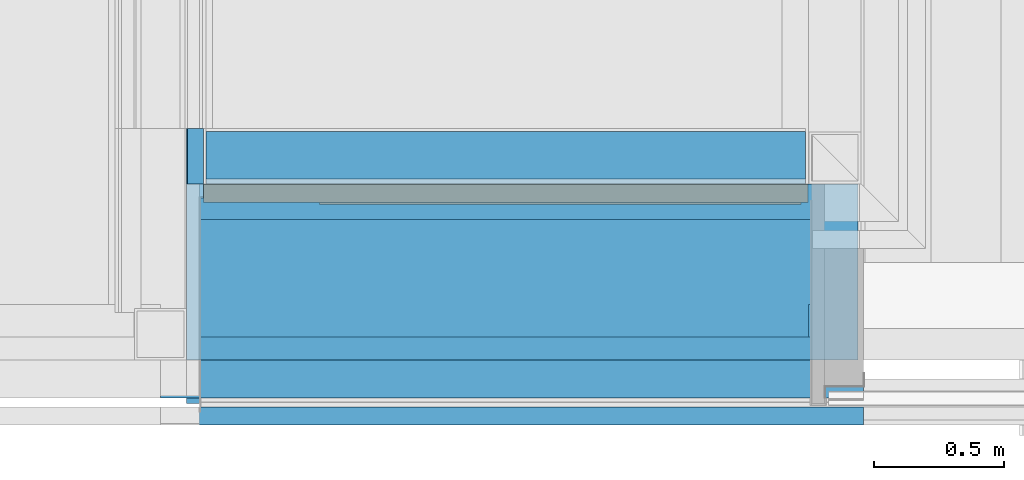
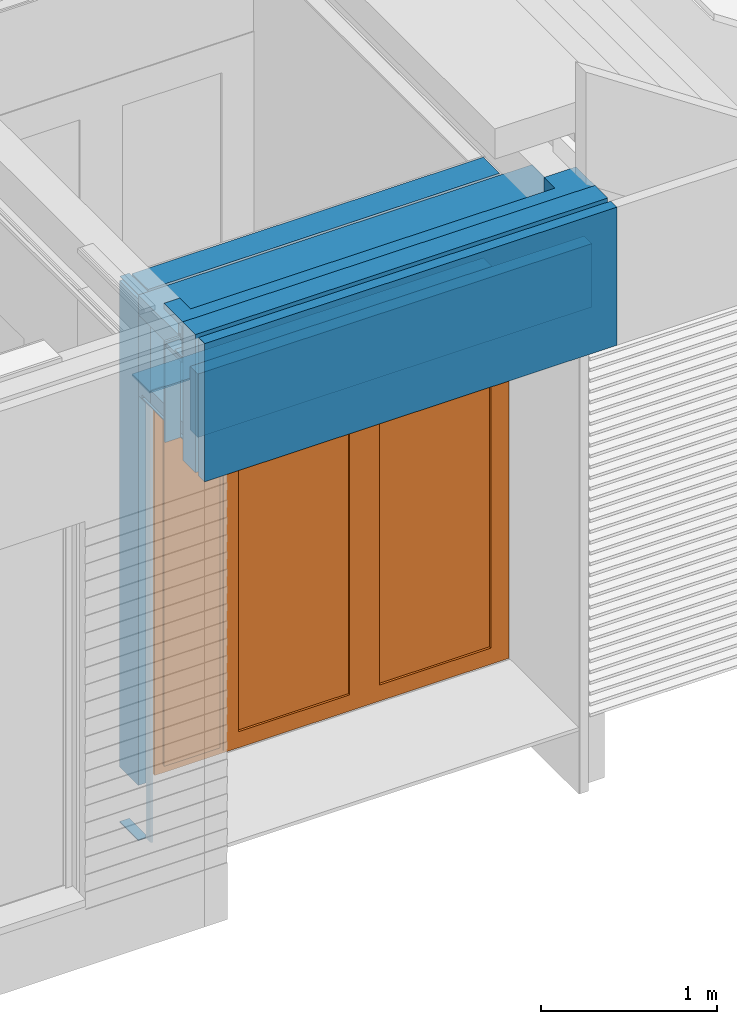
# One storey, part 43 of 165: 11 building element parts, 1 proxy, 1 opening, 4 elements without a shape of their own, plus 2 elements that do not belong to this part.
"""IFC2X3 building model written with IfcOpenShell, lengths in millimetres."""

from ifc_helpers import new_model, entity, si_unit, converted_unit, derived_unit, money_unit, direction, frame, origin_with_axes, place, context, subcontext, project, spatial, open_shell, faceted_brep, surface_model, material, type_object, element, fill, aggregate, save


model = new_model("IFC2X3")

# Units and contexts
model_context = context("Model", 3, precision=0.01, world=origin_with_axes(), true_north=direction((0.0, 1.0)))
body_context = subcontext(model_context, "Body", "Model", "MODEL_VIEW")
ifc_project = project(units=[si_unit("LENGTHUNIT", "METRE", prefix="MILLI"), si_unit("AREAUNIT", "SQUARE_METRE"), si_unit("VOLUMEUNIT", "CUBIC_METRE"), converted_unit("PLANEANGLEUNIT", "DEGREE", entity("IfcPlaneAngleMeasure", 0.0174532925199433), si_unit("PLANEANGLEUNIT", "RADIAN"), dimensions=[0, 0, 0, 0, 0, 0, 0]), money_unit("EUR"), converted_unit("TIMEUNIT", "Year", entity("IfcTimeMeasure", 31556926.0), si_unit("TIMEUNIT", "SECOND"), dimensions=[0, 0, 1, 0, 0, 0, 0]), si_unit("MASSUNIT", "GRAM", prefix="KILO"), si_unit("THERMODYNAMICTEMPERATUREUNIT", "DEGREE_CELSIUS"), si_unit("LUMINOUSINTENSITYUNIT", "LUMEN"), si_unit("ENERGYUNIT", "JOULE", prefix="MEGA"), derived_unit("THERMALCONDUCTANCEUNIT", [(si_unit("POWERUNIT", "WATT"), 1), (si_unit("LENGTHUNIT", "METRE"), -1), (si_unit("THERMODYNAMICTEMPERATUREUNIT", "KELVIN"), -1)]), derived_unit("SPECIFICHEATCAPACITYUNIT", [(si_unit("ENERGYUNIT", "JOULE"), 1), (si_unit("MASSUNIT", "GRAM", prefix="KILO"), -1), (si_unit("THERMODYNAMICTEMPERATUREUNIT", "KELVIN"), -1)]), derived_unit("MASSDENSITYUNIT", [(si_unit("MASSUNIT", "GRAM", prefix="KILO"), 1), (si_unit("VOLUMEUNIT", "CUBIC_METRE"), -1)])], contexts=[model_context])

# Site, building, storey
site_placement = place(None, origin_with_axes())
site = spatial("IfcSite", under=ifc_project, at=site_placement, Name="Site", CompositionType="ELEMENT")
building_placement = place(site_placement, origin_with_axes())
building = spatial("IfcBuilding", under=site, at=building_placement, Name="Naam gebouw", CompositionType="ELEMENT")
storey_placement = place(building_placement, origin_with_axes())
storey = spatial("IfcBuildingStorey", under=building, at=storey_placement, Name="Begane grond", CompositionType="ELEMENT", Elevation=0.0)

# Proxy
building_element_proxy_type = type_object("IfcBuildingElementProxyType", Name="D2 zl1 26", PredefinedType="NOTDEFINED")
wall_1_placement = place(storey_placement, frame((8950.0, 679.999999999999, -485.0), z_axis=(0.0, 0.0, 1.0), x_axis=(1.0, 0.0, 0.0)))
opening_placement = place(wall_1_placement, frame((1230.500000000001, 0.0, 475.0), z_axis=(0.0, 0.0, 1.0), x_axis=(1.0, 0.0, 0.0)))
proxy_placement = place(opening_placement, frame((1165.000000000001, 0.0, 0.0), z_axis=(0.0, 0.0, 1.0), x_axis=(-1.0, 0.0, 0.0)))
proxy = element("IfcBuildingElementProxy", 1, at=proxy_placement, inside=storey, type_object=building_element_proxy_type, Name="_Merk AJ", context=body_context, shape_type="SurfaceModel", body=[
    faceted_brep([(1881.999999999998, 0.9999999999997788, 2594.0), (1881.999999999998, 0.9999999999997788, 2566.0), (1907.999999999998, 0.9999999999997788, 2566.0), (2276.000000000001, 0.9999999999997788, 2566.0), (2330.000000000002, 0.9999999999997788, 2566.0), (2330.000000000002, 0.9999999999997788, 2620.0), (0.0, 1.000000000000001, 2620.0), (0.0, 1.000000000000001, 2566.0), (26.00000000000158, 1.000000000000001, 2566.0), (26.00000000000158, 1.000000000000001, 2594.0), (1881.999999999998, 72.99999999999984, 2594.0), (1881.999999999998, 72.99999999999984, 2566.0), (1907.999999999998, 72.99999999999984, 2566.0), (2276.000000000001, 72.99999999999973, 2566.0), (2330.000000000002, 72.99999999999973, 2566.0), (2330.000000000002, 72.99999999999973, 2620.0), (0.0, 73.00000000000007, 2620.0), (0.0, 73.00000000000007, 2566.0), (26.00000000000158, 73.00000000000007, 2566.0), (26.00000000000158, 73.00000000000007, 2594.0)], [[[0, 1, 2, 3, 4, 5, 6, 7, 8, 9]], [[1, 0, 10, 11]], [[1, 11, 12, 2]], [[2, 12, 13, 3]], [[3, 13, 14, 4]], [[4, 14, 15, 5]], [[5, 15, 16, 6]], [[6, 16, 17, 7]], [[18, 8, 7, 17]], [[9, 8, 18, 19]], [[0, 9, 19, 10]], [[11, 10, 19, 18, 17, 16, 15, 14, 13, 12]]]),
    faceted_brep([(26.00000000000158, 73.00000000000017, 0.0), (1881.999999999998, 72.99999999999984, 0.0), (1881.999999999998, 0.9999999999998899, 0.0), (26.00000000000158, 1.000000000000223, 0.0), (26.00000000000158, 73.00000000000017, 20.0), (1881.999999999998, 72.99999999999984, 20.00000000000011), (1881.999999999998, 0.9999999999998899, 20.00000000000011), (26.00000000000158, 1.000000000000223, 19.99999999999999)], [[[0, 1, 2, 3]], [[4, 5, 1, 0]], [[1, 5, 6, 2]], [[3, 2, 6, 7]], [[0, 3, 7, 4]], [[7, 6, 5, 4]]]),
    faceted_brep([(2330.000000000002, 72.99999999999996, 0.0), (2330.000000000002, 0.9999999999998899, 0.0), (2276.000000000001, 0.9999999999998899, 0.0), (2276.000000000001, 72.99999999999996, 0.0), (2330.000000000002, 72.99999999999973, 2566.0), (2330.000000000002, 0.9999999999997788, 2566.0), (2276.000000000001, 0.9999999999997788, 2566.0), (2276.000000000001, 0.9999999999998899, 53.99999999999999), (2276.000000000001, 72.99999999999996, 54.0), (2276.000000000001, 72.99999999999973, 2566.0)], [[[0, 1, 2, 3]], [[4, 5, 1, 0]], [[1, 5, 6, 7, 2]], [[3, 2, 7, 8]], [[0, 3, 8, 9, 4]], [[9, 6, 5, 4]], [[8, 7, 6, 9]]]),
    faceted_brep([(1881.999999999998, 1.000000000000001, 0.0), (1907.999999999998, 1.000000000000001, 0.0), (1907.999999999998, 1.000000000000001, 54.00000000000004), (1907.999999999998, 0.9999999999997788, 2566.0), (1881.999999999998, 0.9999999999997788, 2566.0), (1881.999999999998, 72.99999999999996, 0.0), (1907.999999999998, 72.99999999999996, 0.0), (1907.999999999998, 72.99999999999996, 54.00000000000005), (1907.999999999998, 72.99999999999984, 2566.0), (1881.999999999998, 72.99999999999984, 2566.0)], [[[0, 1, 2, 3, 4]], [[5, 6, 1, 0]], [[6, 7, 2, 1]], [[7, 8, 3, 2]], [[4, 3, 8, 9]], [[9, 5, 0, 4]], [[9, 8, 7, 6, 5]]]),
    faceted_brep([(2276.000000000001, 72.99999999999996, 54.0), (2276.000000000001, 0.9999999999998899, 53.99999999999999), (2276.000000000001, 0.9999999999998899, 0.0), (2276.000000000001, 72.99999999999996, 0.0), (1907.999999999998, 72.99999999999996, 54.0), (1907.999999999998, 1.000000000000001, 53.99999999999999), (1907.999999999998, 1.000000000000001, 0.0), (1907.999999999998, 72.99999999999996, 0.0)], [[[0, 1, 2, 3]], [[4, 5, 1, 0]], [[1, 5, 6, 2]], [[3, 2, 6, 7]], [[0, 3, 7, 4]], [[7, 6, 5, 4]]]),
    faceted_brep([(26.00000000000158, 73.00000000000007, 2566.0), (0.0, 73.00000000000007, 2566.0), (0.0, 1.000000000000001, 2566.0), (26.00000000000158, 1.000000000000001, 2566.0), (26.00000000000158, 73.00000000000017, 0.0), (0.0, 73.00000000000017, 0.0), (0.0, 1.000000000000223, 0.0), (26.00000000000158, 1.000000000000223, 0.0)], [[[0, 1, 2, 3]], [[4, 5, 1, 0]], [[1, 5, 6, 2]], [[3, 2, 6, 7]], [[7, 4, 0, 3]], [[7, 6, 5, 4]]]),
    faceted_brep([(26.00000000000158, 80.20000000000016, 118.0), (124.0000000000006, 80.20000000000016, 118.0), (124.0000000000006, 0.2000000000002, 118.0), (26.00000000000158, 0.2000000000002, 118.0), (26.00000000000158, 80.19999999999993, 2496.0), (124.0000000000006, 80.19999999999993, 2496.0), (124.0000000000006, 0.199999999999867, 2496.0), (26.00000000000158, 0.199999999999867, 2496.0)], [[[0, 1, 2, 3]], [[0, 4, 5, 1]], [[1, 5, 6, 2]], [[3, 2, 6, 7]], [[4, 0, 3, 7]], [[5, 4, 7, 6]]]),
    faceted_brep([(953.9999999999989, 80.20000000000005, 118.0), (953.9999999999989, 80.19999999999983, 2496.0), (953.9999999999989, 0.1999999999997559, 2496.0), (953.9999999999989, 0.200000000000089, 118.0), (855.9999999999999, 80.20000000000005, 118.0), (855.9999999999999, 80.19999999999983, 2496.0), (855.9999999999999, 0.199999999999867, 2496.0), (855.9999999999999, 0.200000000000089, 118.0)], [[[0, 1, 2, 3]], [[0, 4, 5, 1]], [[1, 5, 6, 2]], [[3, 2, 6, 7]], [[4, 0, 3, 7]], [[5, 4, 7, 6]]]),
    faceted_brep([(26.00000000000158, 80.20000000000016, 20.0), (953.9999999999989, 80.20000000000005, 20.0), (953.9999999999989, 0.200000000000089, 20.0), (26.00000000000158, 0.2000000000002, 20.0), (26.00000000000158, 80.20000000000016, 118.0), (124.0000000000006, 80.20000000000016, 118.0), (855.9999999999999, 80.20000000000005, 118.0), (953.9999999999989, 80.20000000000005, 118.0), (953.9999999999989, 0.200000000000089, 118.0), (855.9999999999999, 0.200000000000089, 118.0), (124.0000000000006, 0.2000000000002, 118.0), (26.00000000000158, 0.2000000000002, 118.0)], [[[0, 1, 2, 3]], [[0, 4, 5, 6, 7, 1]], [[1, 7, 8, 2]], [[3, 2, 8, 9, 10, 11]], [[4, 0, 3, 11]], [[5, 4, 11, 10]], [[6, 5, 10, 9]], [[7, 6, 9, 8]]]),
    faceted_brep([(26.00000000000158, 80.19999999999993, 2594.0), (26.00000000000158, 80.19999999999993, 2496.0), (26.00000000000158, 0.199999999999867, 2496.0), (26.00000000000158, 0.199999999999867, 2594.0), (953.9999999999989, 80.19999999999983, 2594.0), (953.9999999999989, 80.19999999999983, 2496.0), (855.9999999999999, 80.19999999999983, 2496.0), (124.0000000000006, 80.19999999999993, 2496.0), (124.0000000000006, 0.199999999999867, 2496.0), (855.9999999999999, 0.199999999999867, 2496.0), (953.9999999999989, 0.1999999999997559, 2496.0), (953.9999999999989, 0.1999999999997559, 2594.0)], [[[0, 1, 2, 3]], [[0, 4, 5, 6, 7, 1]], [[1, 7, 8, 2]], [[3, 2, 8, 9, 10, 11]], [[4, 0, 3, 11]], [[5, 4, 11, 10]], [[6, 5, 10, 9]], [[7, 6, 9, 8]]]),
    surface_model("IfcShellBasedSurfaceModel", [(124.0000000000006, 65.20000000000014, 118.0), (124.0000000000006, 65.20000000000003, 2496.0), (855.9999999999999, 65.19999999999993, 2496.0), (855.9999999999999, 65.20000000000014, 118.0)], [open_shell([[[0, 1, 2, 3]]])]),
    surface_model("IfcShellBasedSurfaceModel", [(124.0000000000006, 15.20000000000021, 118.0), (855.9999999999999, 15.2000000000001, 118.0), (855.9999999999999, 15.19999999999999, 2496.0), (124.0000000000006, 15.19999999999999, 2496.0)], [open_shell([[[0, 1, 2, 3]]])]),
    faceted_brep([(1881.999999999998, 80.19999999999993, 118.0), (1881.999999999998, 0.199999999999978, 118.0), (1783.999999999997, 0.199999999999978, 118.0), (1783.999999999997, 80.19999999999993, 118.0), (1881.999999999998, 80.19999999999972, 2496.0), (1881.999999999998, 0.1999999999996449, 2496.0), (1783.999999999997, 0.1999999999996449, 2496.0), (1783.999999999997, 80.19999999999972, 2496.0)], [[[0, 1, 2, 3]], [[4, 5, 1, 0]], [[1, 5, 6, 2]], [[3, 2, 6, 7]], [[0, 3, 7, 4]], [[7, 6, 5, 4]]]),
    faceted_brep([(953.9999999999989, 80.20000000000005, 118.0), (953.9999999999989, 0.200000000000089, 118.0), (953.9999999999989, 0.1999999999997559, 2496.0), (953.9999999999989, 80.19999999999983, 2496.0), (1052.0, 80.20000000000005, 118.0), (1052.0, 0.200000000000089, 118.0), (1052.0, 0.1999999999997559, 2496.0), (1052.0, 80.19999999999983, 2496.0)], [[[0, 1, 2, 3]], [[4, 5, 1, 0]], [[1, 5, 6, 2]], [[3, 2, 6, 7]], [[0, 3, 7, 4]], [[7, 6, 5, 4]]]),
    faceted_brep([(1881.999999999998, 80.19999999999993, 20.0), (1881.999999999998, 0.199999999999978, 20.0), (953.9999999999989, 0.200000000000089, 20.0), (953.9999999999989, 80.20000000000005, 20.0), (1881.999999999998, 80.19999999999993, 118.0), (1881.999999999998, 0.199999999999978, 118.0), (1783.999999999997, 0.199999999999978, 118.0), (1052.0, 0.200000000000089, 118.0), (953.9999999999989, 0.200000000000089, 118.0), (953.9999999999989, 80.20000000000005, 118.0), (1052.0, 80.20000000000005, 118.0), (1783.999999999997, 80.19999999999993, 118.0)], [[[0, 1, 2, 3]], [[4, 5, 1, 0]], [[1, 5, 6, 7, 8, 2]], [[3, 2, 8, 9]], [[0, 3, 9, 10, 11, 4]], [[11, 6, 5, 4]], [[10, 7, 6, 11]], [[9, 8, 7, 10]]]),
    faceted_brep([(1881.999999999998, 80.19999999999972, 2594.0), (1881.999999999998, 0.1999999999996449, 2594.0), (1881.999999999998, 0.1999999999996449, 2496.0), (1881.999999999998, 80.19999999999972, 2496.0), (953.9999999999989, 80.19999999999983, 2594.0), (953.9999999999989, 0.1999999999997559, 2594.0), (953.9999999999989, 0.1999999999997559, 2496.0), (1052.0, 0.1999999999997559, 2496.0), (1783.999999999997, 0.1999999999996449, 2496.0), (1783.999999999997, 80.19999999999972, 2496.0), (1052.0, 80.19999999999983, 2496.0), (953.9999999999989, 80.19999999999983, 2496.0)], [[[0, 1, 2, 3]], [[4, 5, 1, 0]], [[1, 5, 6, 7, 8, 2]], [[3, 2, 8, 9]], [[0, 3, 9, 10, 11, 4]], [[11, 6, 5, 4]], [[10, 7, 6, 11]], [[9, 8, 7, 10]]]),
    surface_model("IfcShellBasedSurfaceModel", [(1783.999999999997, 65.20000000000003, 118.0), (1052.0, 65.20000000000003, 118.0), (1052.0, 65.19999999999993, 2496.0), (1783.999999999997, 65.19999999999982, 2496.0)], [open_shell([[[0, 1, 2, 3]]])]),
    surface_model("IfcShellBasedSurfaceModel", [(1783.999999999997, 15.19999999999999, 118.0), (1783.999999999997, 15.19999999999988, 2496.0), (1052.0, 15.19999999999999, 2496.0), (1052.0, 15.2000000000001, 118.0)], [open_shell([[[0, 1, 2, 3]]])]),
    surface_model("IfcShellBasedSurfaceModel", [(2276.000000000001, 87.99999999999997, 54.0), (1907.999999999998, 87.99999999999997, 54.0), (1907.999999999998, 87.99999999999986, 2566.0), (2276.000000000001, 87.99999999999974, 2566.0)], [open_shell([[[0, 1, 2, 3]]])]),
    surface_model("IfcShellBasedSurfaceModel", [(2276.000000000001, 37.99999999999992, 54.0), (2276.000000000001, 37.99999999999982, 2566.0), (1907.999999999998, 37.99999999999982, 2566.0), (1907.999999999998, 37.99999999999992, 54.0)], [open_shell([[[0, 1, 2, 3]]])]),
])

# Wall, opening
wall_type_1 = type_object("IfcWallType", Name="21 Buitenwand staalplaat 268", PredefinedType="NOTDEFINED")
wall_1 = element("IfcWall", 2, at=wall_1_placement, inside=storey, type_object=wall_type_1, Name="21_Wand-x")
opening = element("IfcOpeningElement", 3, at=opening_placement, cuts=wall_1, Name="_Merk AJ", context=body_context, shape_type="Brep", body=[
    faceted_brep([(1165.000000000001, 215.0000000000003, 3620.0), (1165.000000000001, 215.0000000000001, -599.9999999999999), (-1165.000000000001, 215.0000000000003, -599.9999999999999), (-1165.000000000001, 215.0000000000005, 3620.0), (1165.000000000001, -55.00000000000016, 3620.0), (1165.000000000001, -55.00000000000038, -599.9999999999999), (-1165.000000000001, -55.00000000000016, -599.9999999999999), (-1165.000000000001, -54.99999999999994, 3620.0)], [[[0, 1, 2, 3]], [[4, 5, 1, 0]], [[5, 6, 2, 1]], [[6, 7, 3, 2]], [[7, 4, 0, 3]], [[6, 5, 4, 7]]]),
])

fill(opening, proxy)

# Building element part
ifc_material_1 = material(Name="Isolatie - Glaswol zacht")
building_element_part_1_placement = place(wall_1_placement, origin_with_axes())
building_element_part_1 = element("IfcBuildingElementPart", 4, at=building_element_part_1_placement, material=ifc_material_1, Name="Isolatie - Glaswol zacht", context=body_context, shape_type="Brep", body=[
    faceted_brep([(50.00000000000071, 0.0, 0.0), (50.00000000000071, 0.0, 3095.0), (65.50000000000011, 0.0, 3095.0), (65.50000000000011, 0.0, 0.0), (50.00000000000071, -43.43750990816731, 3096.99999613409), (50.00000000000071, -43.43751438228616, 3095.0), (50.00000000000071, -49.99999999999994, 0.0), (50.00000000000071, -49.99999999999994, 3096.99999613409), (65.50000000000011, -43.43751438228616, 3095.0), (65.50000000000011, -43.43750990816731, 3096.99999613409), (65.50000000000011, -49.99999999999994, 3096.99999613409), (65.50000000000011, -49.99999999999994, 0.0)], [[[0, 1, 2, 3]], [[4, 5, 1, 0, 6, 7]], [[5, 8, 2, 1]], [[2, 8, 9, 10, 11, 3]], [[11, 6, 0, 3]], [[5, 4, 9, 8]], [[11, 10, 7, 6]], [[10, 9, 4, 7]]]),
])

ifc_material_2 = material(Name="Rockpanel RAL 1001")
building_element_part_2_placement = place(wall_1_placement, origin_with_axes())
building_element_part_2 = element("IfcBuildingElementPart", 5, at=building_element_part_2_placement, material=ifc_material_2, Name="Rockpanel RAL 1001", context=body_context, shape_type="Brep", body=[
    faceted_brep([(54.00000000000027, -49.99999999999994, 0.0), (54.00000000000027, -49.99999999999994, 3096.99999613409), (65.50000000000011, -49.99999999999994, 3096.99999613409), (65.50000000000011, -49.99999999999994, 0.0), (54.00000000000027, -53.9999999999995, 0.0), (54.00000000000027, -53.9999999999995, 3096.99999613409), (65.50000000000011, -53.9999999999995, 3096.99999613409), (65.50000000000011, -53.9999999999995, 0.0)], [[[0, 1, 2, 3]], [[4, 5, 1, 0]], [[5, 6, 2, 1]], [[3, 2, 6, 7]], [[7, 4, 0, 3]], [[7, 6, 5, 4]]]),
])

ifc_material_3 = material(Name="Steen - Kalkzandsteen C")
building_element_part_3_placement = place(wall_1_placement, origin_with_axes())
building_element_part_3 = element("IfcBuildingElementPart", 6, at=building_element_part_3_placement, material=ifc_material_3, Name="Steen - Kalkzandsteen C", context=body_context, shape_type="Brep", body=[
    faceted_brep([(0.0, 213.9999999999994, 5.000000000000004), (65.50000000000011, 213.9999999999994, 5.000000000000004), (65.50000000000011, 213.9999999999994, 0.0), (0.0, 213.9999999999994, 0.0), (65.50000000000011, 0.0, 5.000000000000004), (0.0, 0.0, 5.000000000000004), (65.50000000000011, 0.0, 0.0), (0.0, 0.0, 0.0)], [[[0, 1, 2, 3]], [[4, 1, 0, 5]], [[1, 4, 6, 2]], [[6, 7, 3, 2]], [[5, 0, 3, 7]], [[4, 5, 7, 6]]]),
    faceted_brep([(65.50000000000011, 0.0, 384.9999999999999), (65.50000000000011, 213.9999999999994, 384.9999999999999), (65.50000000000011, 213.9999999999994, 3765.000002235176), (65.50000000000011, 0.0, 3765.000002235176), (0.0, 213.9999999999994, 384.9999999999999), (0.0, 0.0, 384.9999999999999), (0.0, 213.9999999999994, 3765.000002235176), (0.0, 0.0, 3765.000002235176)], [[[0, 1, 2, 3]], [[4, 1, 0, 5]], [[1, 4, 6, 2]], [[2, 6, 7, 3]], [[5, 0, 3, 7]], [[4, 5, 7, 6]]]),
    faceted_brep([(3.00000000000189, 214.0000000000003, 3795.0), (3.00000000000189, 0.0, 3795.0), (65.50000000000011, 0.0, 3795.0), (65.50000000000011, 214.0000000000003, 3795.0), (3.00000000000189, 0.0, 3790.000002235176), (3.00000000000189, 214.0000000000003, 3790.000002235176), (65.50000000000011, 0.0, 3790.000002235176), (65.50000000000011, 214.0000000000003, 3790.000002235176)], [[[0, 1, 2, 3]], [[4, 1, 0, 5]], [[1, 4, 6, 2]], [[2, 6, 7, 3]], [[5, 0, 3, 7]], [[4, 5, 7, 6]]]),
])

aggregate(wall_1, [building_element_part_1, building_element_part_2, building_element_part_3])

# Wall, building element parts
wall_type_2 = type_object("IfcWallType", Name="21 Buitenwand spouwmuur 464", PredefinedType="NOTDEFINED")
wall_2_placement = place(storey_placement, frame((11560.00000000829, 0.0, 2610.0), z_axis=(0.0, 0.0, 1.0), x_axis=(-1.0, 0.0, 0.0)))
wall_2 = element("IfcWall", 7, at=wall_2_placement, inside=storey, type_object=wall_type_2, Name="21_Wand-x")
ifc_material_4 = material(Name="Steen - Baksteen")
building_element_part_4_placement = place(wall_2_placement, origin_with_axes())
building_element_part_4 = element("IfcBuildingElementPart", 8, at=building_element_part_4_placement, material=ifc_material_4, Name="Steen - Baksteen", context=body_context, shape_type="Brep", body=[
    faceted_brep([(0.0, 250.0, 960.0000034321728), (0.0, 180.0000028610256, 960.0000034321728), (2710.000000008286, 179.9999999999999, 959.9999999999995), (2710.000000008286, 249.9999999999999, 959.9999999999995), (0.0, 250.0, 931.4933415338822), (0.0, 250.0, 0.0), (0.0, 180.0, 0.0), (2710.000000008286, 179.9999999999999, 0.0), (2710.000000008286, 249.9999999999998, 0.0)], [[[0, 1, 2, 3]], [[1, 0, 4, 5, 6]], [[1, 6, 7, 2]], [[3, 2, 7, 8]], [[4, 0, 3, 8, 5]], [[6, 5, 8, 7]]]),
])
building_element_part_5_placement = place(wall_2_placement, origin_with_axes())
building_element_part_5 = element("IfcBuildingElementPart", 9, at=building_element_part_5_placement, material=ifc_material_3, Name="Steen - Kalkzandsteen C", context=body_context, shape_type="Brep", body=[
    faceted_brep([(2710.000000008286, -10.0000000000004, 713.9999999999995), (2620.00000000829, -10.0000000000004, 713.9999999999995), (2620.00000000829, -89.99999999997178, 713.9999999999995), (2710.000000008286, -89.99999999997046, 713.9999999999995), (2710.000000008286, -10.0000000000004, 700.0000000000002), (2620.00000000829, -10.0000000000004, 700.0000000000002), (2620.00000000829, -89.99999999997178, 700.0000000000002), (2710.000000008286, -89.99999999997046, 699.9999999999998)], [[[0, 1, 2, 3]], [[1, 0, 4, 5]], [[6, 2, 1, 5]], [[2, 6, 7, 3]], [[4, 0, 3, 7]], [[5, 4, 7, 6]]]),
    faceted_brep([(2710.000000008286, -10.0000000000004, 695.0000022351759), (2620.00000000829, -10.0000000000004, 695.0000022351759), (2620.00000000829, -190.0000000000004, 695.0000022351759), (2710.000000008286, -190.0000000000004, 695.0000022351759), (2710.000000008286, -10.0000000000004, 670.0000022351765), (2620.00000000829, -10.0000000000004, 670.0000022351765), (2620.00000000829, -190.0000000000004, 670.0000022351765), (2710.000000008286, -190.0000000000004, 670.0000022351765)], [[[0, 1, 2, 3]], [[1, 0, 4, 5]], [[2, 1, 5, 6]], [[3, 2, 6, 7]], [[4, 0, 3, 7]], [[5, 4, 7, 6]]]),
    faceted_brep([(2610.00000000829, 0.0, 700.0000000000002), (2610.00000000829, -200.0000000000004, 699.9999999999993), (2610.00000000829, -214.0000000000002, 699.9999999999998), (2607.000000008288, -213.9999999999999, 699.9999999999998), (2607.000000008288, -89.99999999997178, 699.9999999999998), (211.0000000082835, -90.0000000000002, 699.9999999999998), (211.0000000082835, -214.0000000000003, 699.9999999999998), (205.0000000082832, -214.0000000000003, 699.9999999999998), (205.0000000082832, -90.0000000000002, 699.9999999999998), (20.00000000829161, -90.00000000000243, 699.9999999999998), (20.00000000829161, 0.0005349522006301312, 699.9999999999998), (2610.00000000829, 0.0, 730.000002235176), (2610.00000000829, -200.0000000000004, 730.000002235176), (2610.00000000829, -200.0000000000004, 0.0), (2610.00000000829, -214.0000000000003, 0.0), (2710.000000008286, -214.0000000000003, 0.0), (2710.000000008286, -213.9999999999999, 699.9999999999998), (2615.000000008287, -214.0000000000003, 699.9999999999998), (2615.000000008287, -213.9999999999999, 919.9999999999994), (2710.000000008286, -213.9999999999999, 919.9999999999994), (2710.000000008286, -213.9999999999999, 959.9999999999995), (2607.000000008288, -213.9999999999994, 959.9999999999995), (2607.000000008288, -89.99999999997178, 713.9999999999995), (2607.000000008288, -89.99999999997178, 959.9999999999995), (2607.000000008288, -89.99999999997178, 945.9999999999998), (2607.000000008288, -9.999999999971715, 945.9999999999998), (2607.000000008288, -9.999999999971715, 713.9999999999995), (211.0000000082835, -90.0000000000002, 713.9999999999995), (211.0000000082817, -213.9999999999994, 960.0000000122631), (211.0000000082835, -10.00000000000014, 713.9999999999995), (211.0000000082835, -10.00000000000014, 945.9999999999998), (211.0000000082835, -90.0000000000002, 945.9999999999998), (211.0000000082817, -90.0000000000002, 959.9999999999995), (205.0000000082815, -213.9999999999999, 930.0000004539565), (0.0, -213.9999999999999, 960.0000034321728), (0.0, -213.9999999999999, 931.4933415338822), (0.0, -213.9999999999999, 0.0), (20.00000000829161, -213.9999999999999, 0.0), (20.00000000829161, -213.9999999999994, 699.9999999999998), (15.00000000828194, -213.9999999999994, 699.9999999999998), (15.00000000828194, -213.9999999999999, 930.0000004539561), (205.0000000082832, -90.0000000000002, 713.9999999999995), (205.0000000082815, -10.00000000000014, 930.0000004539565), (205.0000000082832, -10.00000000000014, 713.9999999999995), (15.00000000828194, -90.00000000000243, 699.9999999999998), (15.00000000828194, -90.00000000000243, 713.9999999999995), (20.00000000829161, 0.0005349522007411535, 0.0), (0.0, 0.0, 0.0), (0.0, -2.622606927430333e-06, 960.0000034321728), (2710.000000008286, 0.0, 959.9999999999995), (2710.000000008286, 0.0, 730.000002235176), (2710.000000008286, -10.0000000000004, 730.000002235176), (2620.00000000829, -10.0000000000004, 730.000002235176), (2615.000000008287, -9.999999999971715, 730.000002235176), (2615.000000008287, -200.0000000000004, 730.000002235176), (2615.000000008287, -200.0000000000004, 699.9999999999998), (2710.000000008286, -200.0000000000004, 699.9999999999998), (2710.000000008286, -200.0000000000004, 0.0), (2615.000000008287, -9.999999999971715, 919.9999999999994), (2710.000000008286, -9.999999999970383, 919.9999999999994), (15.00000000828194, -10.00000000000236, 713.9999999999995), (15.00000000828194, -10.00000000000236, 930.0000004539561)], [[[0, 1, 2, 3, 4, 5, 6, 7, 8, 9, 10]], [[1, 0, 11, 12]], [[1, 13, 14, 2]], [[3, 2, 14, 15, 16, 17, 18, 19, 20, 21]], [[22, 4, 3, 21, 23, 24, 25, 26]], [[27, 5, 4, 22]], [[28, 6, 5, 27, 29, 30, 31, 32]], [[33, 7, 6, 28, 34, 35, 36, 37, 38, 39, 40]], [[41, 8, 7, 33, 42, 43]], [[44, 9, 8, 41, 45]], [[10, 9, 38, 37, 46]], [[11, 0, 10, 46, 47, 48, 49, 50]], [[11, 50, 51, 52, 53, 54, 12]], [[13, 1, 12, 54, 55, 56, 57]], [[13, 57, 15, 14]], [[57, 56, 16, 15]], [[56, 55, 17, 16]], [[54, 53, 58, 18, 17, 55]], [[18, 58, 59, 19]], [[51, 50, 49, 20, 19, 59]], [[34, 28, 32, 23, 21, 20, 49, 48]], [[32, 31, 24, 23]], [[24, 31, 30, 25]], [[25, 30, 29, 26]], [[26, 29, 27, 22]], [[34, 48, 47, 36, 35]], [[46, 37, 36, 47]], [[39, 38, 9, 44]], [[45, 60, 61, 40, 39, 44]], [[40, 61, 42, 33]], [[60, 43, 42, 61]], [[45, 41, 43, 60]], [[52, 51, 59, 58, 53]]]),
])
ifc_material_5 = material(Name="Isolatie - Steenwol zacht")
building_element_part_6_placement = place(wall_2_placement, origin_with_axes())
building_element_part_6 = element("IfcBuildingElementPart", 10, at=building_element_part_6_placement, material=ifc_material_5, Name="Isolatie - Steenwol zacht", context=body_context, shape_type="Brep", body=[
    faceted_brep([(20.00000000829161, 2.082227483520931e-06, 31.99999839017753), (2610.00000000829, 2.082227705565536e-06, 31.99999839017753), (2610.00000000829, 0.0, 0.0), (2710.000000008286, 0.0, 0.0), (2710.000000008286, 0.0, 959.9999999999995), (0.0, -2.622606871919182e-06, 960.0000034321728), (0.0, 0.0, 0.0), (20.00000000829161, 0.0, 0.0), (20.00000000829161, 144.999997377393, 31.99999839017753), (2610.00000000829, 144.9999973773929, 31.99999839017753), (2610.00000000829, 144.9999999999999, 0.0), (2710.000000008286, 144.9999999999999, 0.0), (2710.000000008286, 144.9999999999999, 959.9999999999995), (0.0, 144.9999973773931, 960.0000034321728), (0.0, 145.0, 0.0), (20.00000000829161, 145.0, 0.0)], [[[0, 1, 2, 3, 4, 5, 6, 7]], [[0, 8, 9, 1]], [[2, 1, 9, 10]], [[3, 2, 10, 11]], [[3, 11, 12, 4]], [[4, 12, 13, 5]], [[14, 6, 5, 13]], [[14, 15, 7, 6]], [[8, 0, 7, 15]], [[9, 8, 15, 14, 13, 12, 11, 10]]]),
])
aggregate(wall_2, [building_element_part_4, building_element_part_5, building_element_part_6])

# Beam, building element parts
beam_type_1 = type_object("IfcBeamType", Name="45 Buitenplafond entree KOV 847 x 700", PredefinedType="BEAM")
beam_1_placement = place(storey_placement, frame((8950.0, 679.999999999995, 3310.0), z_axis=(0.0, 0.0, 1.0), x_axis=(0.0, -1.0, 0.0)))
beam_1 = element("IfcBeam", 11, at=beam_1_placement, inside=storey, type_object=beam_type_1, Name="_Regenwaterafvoer-x", ObjectType="BEAM")
ifc_material_6 = material(Name="ALG - LICHTE SCHEIDINGSWAND")
building_element_part_7_placement = place(beam_1_placement, origin_with_axes())
building_element_part_7 = element("IfcBuildingElementPart", 12, at=building_element_part_7_placement, material=ifc_material_6, Name="ALG - LICHTE SCHEIDINGSWAND", context=body_context, shape_type="Brep", body=[
    faceted_brep([(590.9999922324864, 2589.999999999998, -138.0000077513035), (591.0000003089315, 2589.999999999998, -578.9999947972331), (591.0000003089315, 0.0, -578.9999947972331), (590.9999922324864, 0.0, -138.0000077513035), (680.0005349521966, 2589.999999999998, -138.0000077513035), (680.0000019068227, 2589.999999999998, -579.0000028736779), (680.0000019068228, 0.0, -579.0000028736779), (680.0005349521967, 0.0, -138.0000077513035)], [[[0, 1, 2, 3]], [[0, 4, 5, 1]], [[1, 5, 6, 2]], [[3, 2, 6, 7]], [[4, 0, 3, 7]], [[5, 4, 7, 6]]]),
])
building_element_part_8_placement = place(beam_1_placement, origin_with_axes())
building_element_part_8 = element("IfcBuildingElementPart", 13, at=building_element_part_8_placement, material=ifc_material_2, Name="Rockpanel RAL 1001", context=body_context, shape_type="Brep", body=[
    faceted_brep([(43.43750990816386, 2589.999999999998, -690.0000000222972), (43.43750990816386, 2589.999999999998, -698.0000038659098), (43.43750990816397, 0.0, -698.0000038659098), (43.43750990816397, 0.0, -690.0000000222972), (847.0001676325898, 2589.999999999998, -690.0000000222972), (847.0001676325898, 2589.999999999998, -698.0000038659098), (847.0001676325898, 0.0, -698.0000038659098), (847.0001676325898, 0.0, -690.0000000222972)], [[[0, 1, 2, 3]], [[0, 4, 5, 1]], [[1, 5, 6, 2]], [[3, 2, 6, 7]], [[4, 0, 3, 7]], [[5, 4, 7, 6]]]),
])
building_element_part_9_placement = place(beam_1_placement, origin_with_axes())
building_element_part_9 = element("IfcBuildingElementPart", 14, at=building_element_part_9_placement, material=ifc_material_6, Name="ALG - LICHTE SCHEIDINGSWAND", context=body_context, shape_type="Brep", body=[
    faceted_brep([(137.9999988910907, 2589.999999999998, -578.9999934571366), (137.9999988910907, 2589.999999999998, -668.0000044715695), (137.9999988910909, 0.0, -668.0000044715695), (137.9999988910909, 0.0, -578.9999934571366), (680.0000020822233, 2589.999999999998, -579.0000015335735), (680.0000020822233, 2589.999999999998, -668.0000044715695), (680.0000020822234, 0.0, -668.0000044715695), (680.0000020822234, 0.0, -579.0000015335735)], [[[0, 1, 2, 3]], [[0, 4, 5, 1]], [[1, 5, 6, 2]], [[3, 2, 6, 7]], [[4, 0, 3, 7]], [[5, 4, 7, 6]]]),
])
ifc_material_7 = material(Name="Isolatie - Glaswol hard")
building_element_part_10_placement = place(beam_1_placement, origin_with_axes())
building_element_part_10 = element("IfcBuildingElementPart", 15, at=building_element_part_10_placement, material=ifc_material_7, Name="Isolatie - Glaswol hard", context=body_context, shape_type="Brep", body=[
    faceted_brep([(680.0005349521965, 2589.999999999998, 0.0), (0.0, 2589.999999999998, 0.0), (0.0, 0.0, 0.0), (680.0005349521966, 0.0, 0.0), (680.0005349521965, 2589.999999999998, -138.0000044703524), (0.0, 2589.999999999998, -138.0000044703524), (0.0, 0.0, -138.0000044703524), (680.0005349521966, 0.0, -138.0000044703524)], [[[0, 1, 2, 3]], [[0, 4, 5, 1]], [[1, 5, 6, 2]], [[3, 2, 6, 7]], [[4, 0, 3, 7]], [[5, 4, 7, 6]]]),
])
building_element_part_11_placement = place(beam_1_placement, origin_with_axes())
building_element_part_11 = element("IfcBuildingElementPart", 16, at=building_element_part_11_placement, material=ifc_material_7, Name="Isolatie - Glaswol hard", context=body_context, shape_type="Brep", body=[
    faceted_brep([(0.0, 2589.999999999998, -137.9999999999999), (0.0, 2589.999999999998, -699.9999999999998), (0.0, 0.0, -699.9999999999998), (0.0, 0.0, -137.9999999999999), (137.9999999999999, 2589.999999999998, -137.9999999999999), (137.9999999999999, 2589.999999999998, -667.9999999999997), (43.43751438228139, 2589.999999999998, -667.9999999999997), (43.43750990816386, 2589.999999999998, -698.0000038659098), (43.43751438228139, 2589.999999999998, -699.9999999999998), (43.43751438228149, 0.0, -699.9999999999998), (43.43750990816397, 0.0, -698.0000038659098), (43.43751438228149, 0.0, -667.9999999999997), (138.0, 0.0, -667.9999999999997), (138.0, 0.0, -137.9999999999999)], [[[0, 1, 2, 3]], [[0, 4, 5, 6, 7, 8, 1]], [[1, 8, 9, 2]], [[3, 2, 9, 10, 11, 12, 13]], [[4, 0, 3, 13]], [[5, 4, 13, 12]], [[6, 5, 12, 11]], [[7, 6, 11, 10]], [[8, 7, 10, 9]]]),
])
aggregate(beam_1, [building_element_part_7, building_element_part_8, building_element_part_9, building_element_part_10, building_element_part_11])

beam_type_2 = type_object("IfcBeamType", Name="31 HSB boven kozijnen 214 x 1000", PredefinedType="BEAM")
beam_2_placement = place(storey_placement, frame((9025.0, 893.9999999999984, 2600.000000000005), z_axis=(0.0, 0.0, 1.0), x_axis=(0.0, -1.0, 0.0)))
beam_2 = element("IfcBeam", 17, at=beam_2_placement, inside=storey, type_object=beam_type_2, Name="28_Balk-x", ObjectType="BEAM")
ifc_material_8 = material(Name="Gipsplaat")
building_element_part_12_placement = place(beam_2_placement, origin_with_axes())
building_element_part_12 = element("IfcBuildingElementPart", 18, at=building_element_part_12_placement, material=ifc_material_8, Name="Gipsplaat", context=body_context, shape_type="Brep", body=[
    faceted_brep([(11.99999661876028, 2310.999999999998, 12.00000596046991), (11.99999661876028, 2310.999999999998, 0.0), (11.99999661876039, 0.0, 0.0), (11.99999661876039, 0.0, 12.00000596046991), (214.0000025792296, 2310.999999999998, 12.00000596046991), (214.0000025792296, 2310.999999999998, 0.0), (214.0000025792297, 0.0, 0.0), (214.0000025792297, 0.0, 12.00000596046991)], [[[0, 1, 2, 3]], [[0, 4, 5, 1]], [[1, 5, 6, 2]], [[3, 2, 6, 7]], [[4, 0, 3, 7]], [[5, 4, 7, 6]]]),
])
ifc_material_9 = material(Name="ALG - ISOLATIE")
building_element_part_13_placement = place(beam_2_placement, origin_with_axes())
building_element_part_13 = element("IfcBuildingElementPart", 19, at=building_element_part_13_placement, material=ifc_material_9, Name="ALG - ISOLATIE", context=body_context, shape_type="Brep", body=[
    faceted_brep([(11.99999999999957, 0.0, 709.999999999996), (11.99999999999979, 2310.999999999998, 709.999999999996), (11.99999999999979, 2310.999999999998, 49.99999999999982), (11.99999999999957, 0.0, 49.99999999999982), (195.9999999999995, 2310.999999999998, 709.999999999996), (195.9999999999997, 0.0, 709.999999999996), (195.9999999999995, 2310.999999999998, 49.99999999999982), (195.9999999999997, 0.0, 49.99999999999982)], [[[0, 1, 2, 3]], [[4, 1, 0, 5]], [[1, 4, 6, 2]], [[3, 2, 6, 7]], [[5, 0, 3, 7]], [[4, 5, 7, 6]]]),
])
aggregate(beam_2, [building_element_part_12, building_element_part_13])

save(model, "model.ifc")
